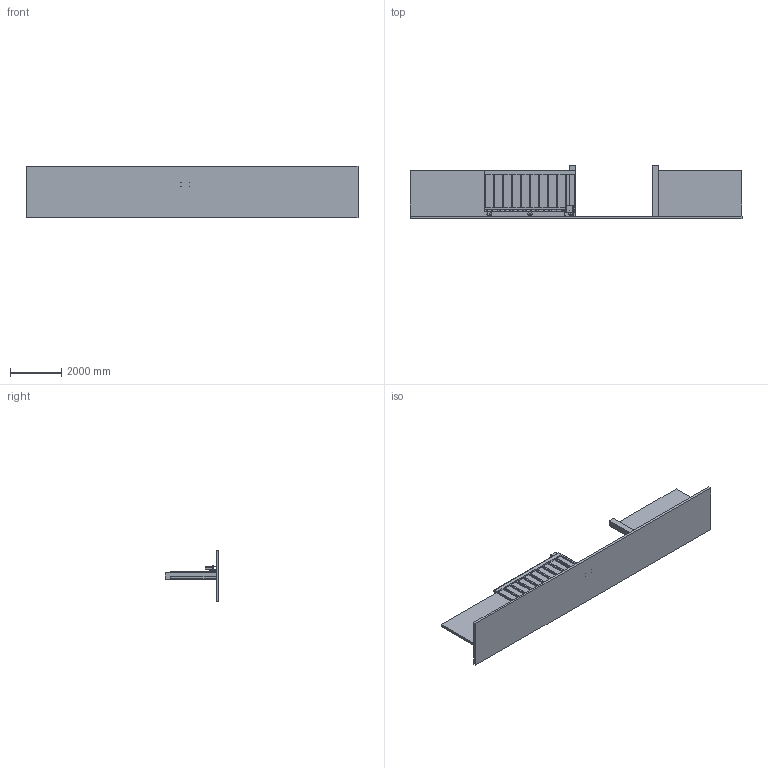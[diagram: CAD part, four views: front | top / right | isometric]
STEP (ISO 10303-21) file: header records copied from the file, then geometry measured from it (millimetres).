
FILE_DESCRIPTION (( 'STEP AP203' ), '1' );
FILE_NAME ('Portail_motorisé_3m_Candidat.STEP', '2025-09-18T11:56:16', ( '' ), ( '' ), 'SwSTEP 2.0', 'SolidWorks 2019', '' );
FILE_SCHEMA (( 'CONFIG_CONTROL_DESIGN' ));
Length unit declared in the file: millimetre
Products named in the file (13): Entretoise; Mur gauche; Portail_motorisé_3m_Candidat; Bloc moteur; Mur droit; Tige filetée M10_R‚aliste; Portail_3m_D‚faut<Brut d''usinage>; Pignon denture droite m=4 Z=18; Vis san fin m=2 - 1 filet(s); Roue; Cr幦aill鋨e m=4 - 40 dents; Socle; Pilier
Assembly tree (27 placements, depth 2):
  Portail_motorisé_3m_Candidat
    Socle
    Pilier  x2
    Mur droit
    Mur gauche
    Portail_3m_D‚faut<Brut d''usinage>
    Roue  x3
    Cr幦aill鋨e m=4 - 40 dents  x7
    Bloc moteur
    Vis san fin m=2 - 1 filet(s)
    Tige filetée M10_R‚aliste  x4
    Entretoise  x4
    Pignon denture droite m=4 Z=18
Bounding box: 13000 x 2100 x 2000 mm (x, y, z)
Volume: 4571115079.4 mm3; surface area: 109912010.3 mm2
Topology: 27 solids, 27 shells, 3863 faces, 11448 edges, 7618 vertices
Faces by surface type: cylinder 2122, plane 1653, bspline 66, sphere 8, cone 8, torus 6
Entity records: 99303 total; most frequent: CARTESIAN_POINT 68958, ORIENTED_EDGE 6428, DIRECTION 5258, EDGE_CURVE 3214, VERTEX_POINT 2134, AXIS2_PLACEMENT_3D 1754, LINE 1750, VECTOR 1750
